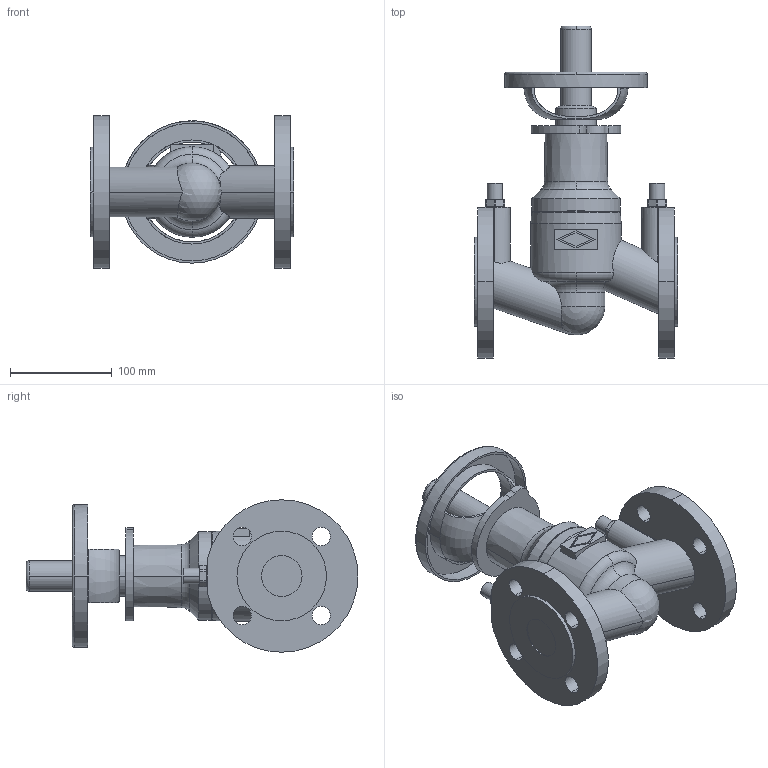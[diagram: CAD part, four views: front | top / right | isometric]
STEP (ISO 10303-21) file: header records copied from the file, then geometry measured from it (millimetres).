
FILE_DESCRIPTION( ( '' ), '1' );
FILE_NAME( 'F:/DE-SHS/TB/OR/04-Sonstiges/daten/files_3d/12020/c000000213.stp', '2015-04-28T06:36:23', ( '' ), ( '' ), ' ', ' ', ' ' );
FILE_SCHEMA( ( 'CONFIG_CONTROL_DESIGN' ) );
Length unit declared in the file: millimetre
Products named in the file (1): 1
Bounding box: 200 x 326.5 x 150 mm (x, y, z)
Volume: 1796403.9 mm3; surface area: 220158.2 mm2
Topology: 1 solids, 1 shells, 172 faces, 455 edges, 301 vertices
Faces by surface type: cylinder 83, plane 61, torus 19, cone 8, sphere 1
Entity records: 6652 total; most frequent: CARTESIAN_POINT 2127, DIRECTION 1002, ORIENTED_EDGE 906, EDGE_CURVE 453, AXIS2_PLACEMENT_3D 404, VERTEX_POINT 301, CIRCLE 227, EDGE_LOOP 210
